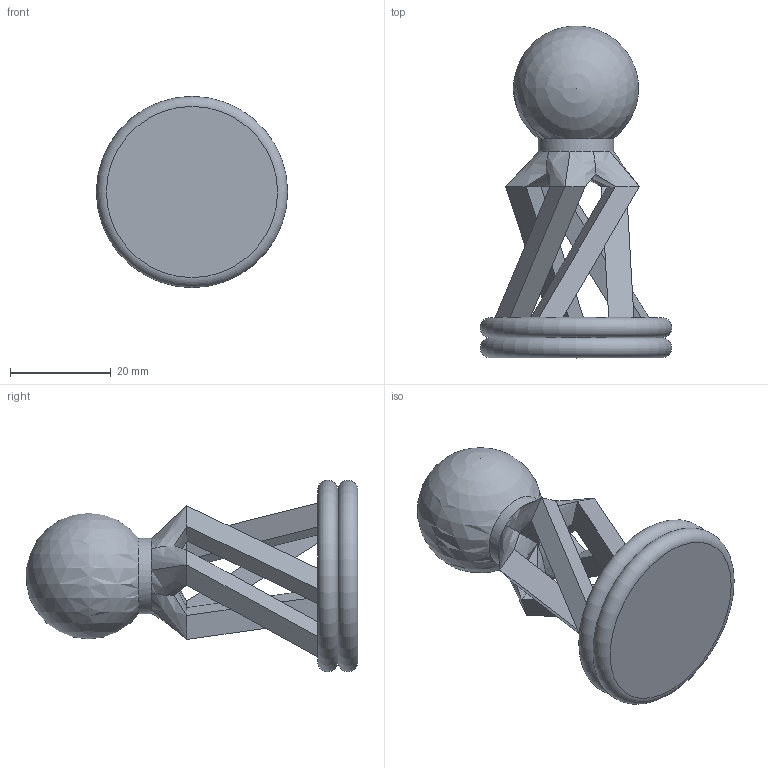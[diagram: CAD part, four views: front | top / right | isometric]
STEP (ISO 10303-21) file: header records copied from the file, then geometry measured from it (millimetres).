
FILE_DESCRIPTION(/* description */ (''),/* implementation_level */ '2;1');
FILE_NAME(/* name */ 'E:\Chess\Pawn.stp',/* time_stamp */ '2021-01-30T10:46:38-05:00',/* author */ ('Owner'),/* organization */ (''),/* preprocessor_version */ 'ST-DEVELOPER v18',/* originating_system */ 'Autodesk Inventor 2020',/* authorisation */ '');
FILE_SCHEMA (('AUTOMOTIVE_DESIGN { 1 0 10303 214 3 1 1 }'));
Length unit declared in the file: millimetre
Products named in the file (1): Pawn
Bounding box: 38 x 65.91 x 38 mm (x, y, z)
Volume: 22000.7 mm3; surface area: 8648.1 mm2
Topology: 1 solids, 1 shells, 46 faces, 122 edges, 80 vertices
Faces by surface type: plane 22, bspline 20, torus 2, cylinder 1, sphere 1
Full cylindrical faces by diameter (mm): 15 x1
Entity records: 1836 total; most frequent: CARTESIAN_POINT 732, ORIENTED_EDGE 226, DIRECTION 181, EDGE_CURVE 113, LINE 81, VECTOR 81, VERTEX_POINT 67, EDGE_LOOP 52
